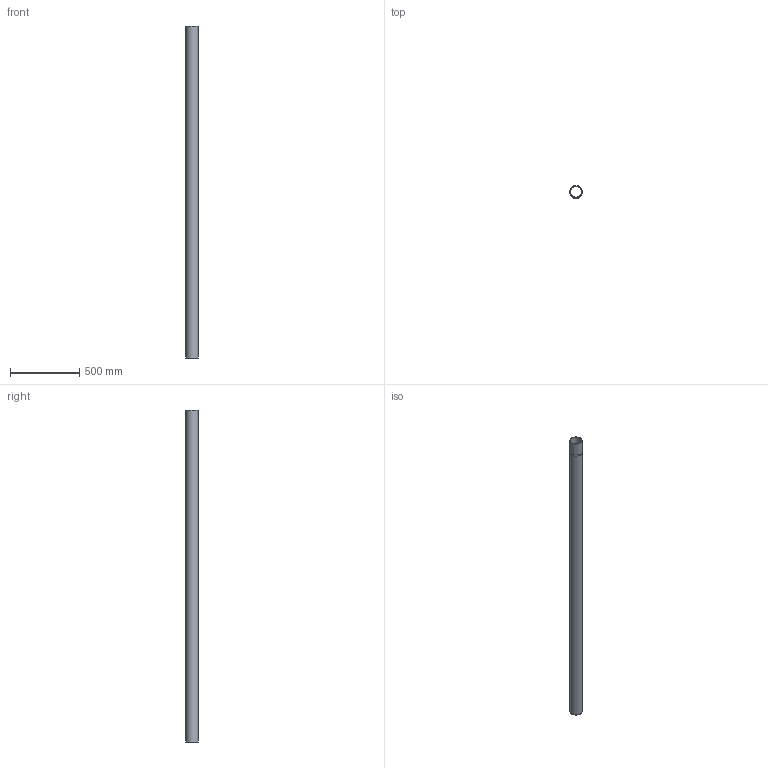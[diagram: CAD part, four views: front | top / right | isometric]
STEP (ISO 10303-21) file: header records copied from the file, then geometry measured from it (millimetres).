
FILE_DESCRIPTION(('Open CASCADE Model'),'2;1');
FILE_NAME('Open CASCADE Shape Model','2026-09-07T11:14:07',('Author'),( 'Open CASCADE'),'Open CASCADE STEP processor 7.9','Open CASCADE 7.9' ,'Unknown');
FILE_SCHEMA(('AUTOMOTIVE_DESIGN { 1 0 10303 214 1 1 1 1 }'));
Length unit declared in the file: millimetre
Products named in the file (1): Open CASCADE STEP translator 7.9 11
Bounding box: 88.9 x 88.9 x 2398.13 mm (x, y, z)
Volume: 1978715.5 mm3; surface area: 1296249.6 mm2
Topology: 1 solids, 1 shells, 8 faces, 13 edges, 8 vertices
Faces by surface type: cylinder 4, plane 3, sphere 1
Full cylindrical faces by diameter (mm): 78 x1, 82.8 x2, 88.9 x1
Entity records: 382 total; most frequent: CARTESIAN_POINT 74, DIRECTION 63, ORIENTED_EDGE 26, PCURVE 26, DEFINITIONAL_REPRESENTATION 26, LINE 24, VECTOR 24, AXIS2_PLACEMENT_3D 18
